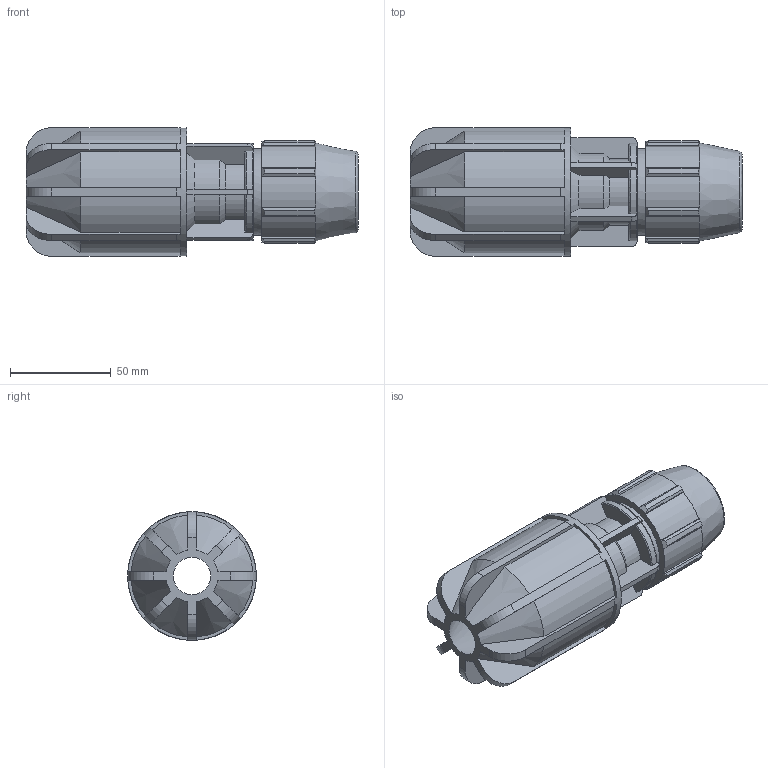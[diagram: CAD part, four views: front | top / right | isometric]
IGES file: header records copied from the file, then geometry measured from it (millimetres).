
Global section: file name: 070170M07022.ipt; native system: Autodesk Inventor 2019; preprocessor: unknown; author: KIM; date: 20210826.124329; units: inch
Bounding box: 165.1 x 64.01 x 64.01 mm (x, y, z)
Volume: 229571.4 mm3; surface area: 58135.9 mm2
Topology: 1 solids, 1 shells, 220 faces, 635 edges, 422 vertices
Faces by surface type: plane 111, cylinder 58, cone 30, revolution 21
Full cylindrical faces by diameter (mm): 43.282 x1, 64.008 x1
